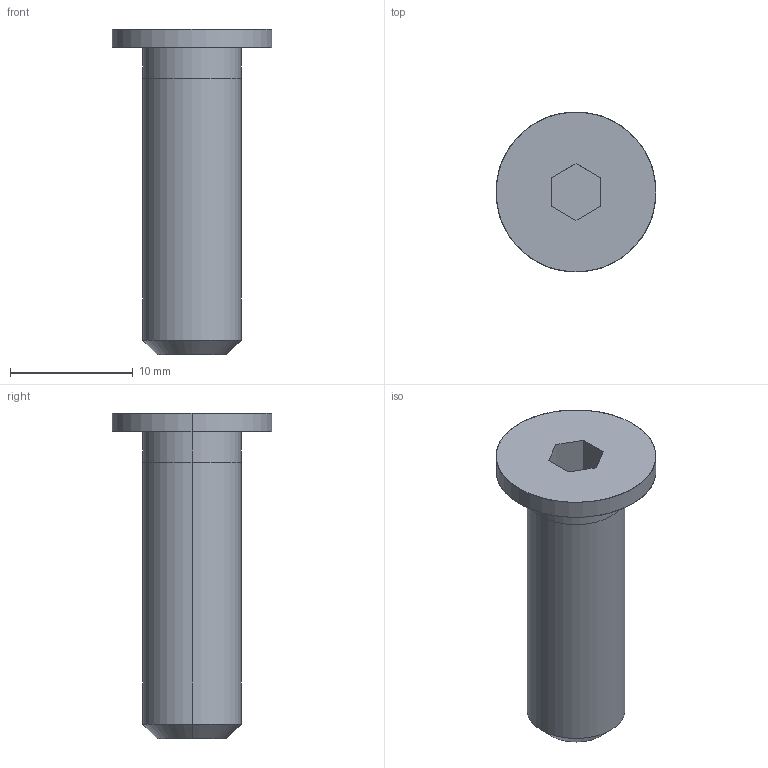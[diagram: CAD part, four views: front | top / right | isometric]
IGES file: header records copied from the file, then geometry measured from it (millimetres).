
Global section: file name: E:\UnigraphicsGraphicData\MISUMI_PRESS-PARTS\IGES\3d_cbss8-25_03510_r00.igs; native system: NX V5.0; preprocessor: UGS NX IGES V5.0; author: MISUMI; date: 20110105.160203; units: millimetre
Bounding box: 13 x 13 x 26.5 mm (x, y, z)
Surface area: 1005.6 mm2 (no closed solid volume)
Topology: 0 solids, 0 shells, 18 faces, 100 edges, 100 vertices
Faces by surface type: bspline 18
